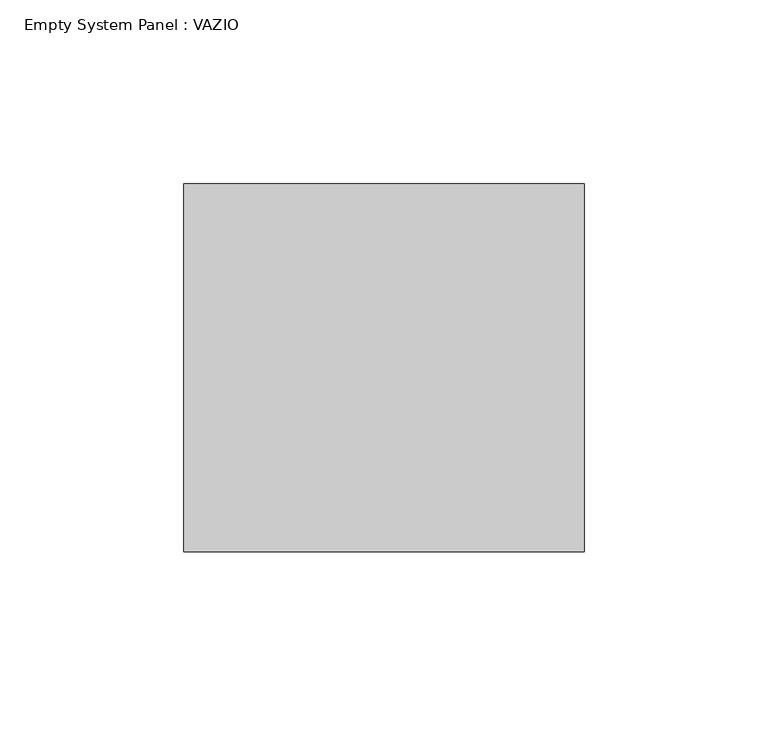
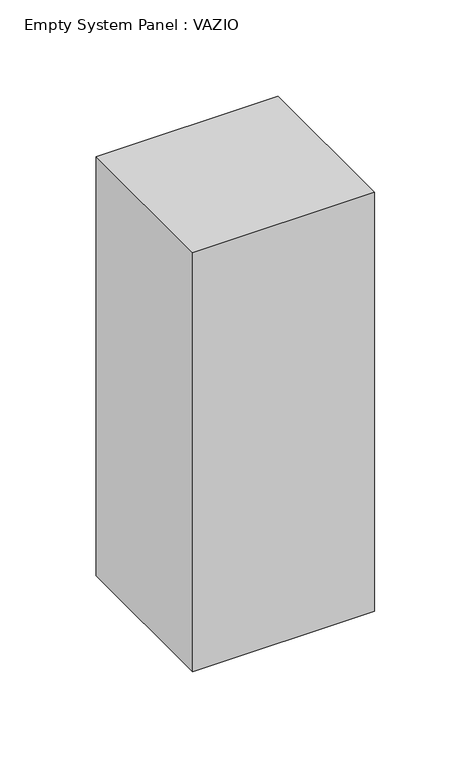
"""IFC4 building model written with IfcOpenShell, lengths in millimetres: plate geometry, Empty System Panel : VAZIO."""

from ifc_helpers import new_model, si_unit, origin, origin_with_axes, place, context, project, spatial, polyline, outline, extrude, source, transform, mapped, element, save


def empty_system_panel_vazio_91d6d3db(model_context):
    return source(origin(), model_context, "Body", "SweptSolid", [
        extrude(outline(polyline([(54.3902439, -50.0), (-54.3902439, -50.0), (-54.3902439, 50.0), (54.3902439, 50.0), (54.3902439, -50.0)])), origin_with_axes(), (0.0, 0.0, 1.0), 265.0),
    ])


if __name__ == "__main__":
    model = new_model("IFC4")
    model_context = context("Model", 3, world=origin())
    ifc_project = project(units=[si_unit("LENGTHUNIT", "METRE", prefix="MILLI")], contexts=[model_context])
    site = spatial("IfcSite", under=ifc_project)
    building = spatial("IfcBuilding", under=site)
    placement = place(None, origin())
    empty_system_panel_vazio_shape = empty_system_panel_vazio_91d6d3db(model_context)
    element("IfcPlate", 1, ObjectType="Empty System Panel : VAZIO", at=placement, inside=building, context=model_context, shape_type="MappedRepresentation", body=[
        mapped(empty_system_panel_vazio_shape, transform((0.0, 0.0, 0.0), x_axis=(1.0, 0.0, 0.0), y_axis=(0.0, 1.0, 0.0), z_axis=(0.0, 0.0, 1.0))),
    ])
    save(model, "model.ifc")
